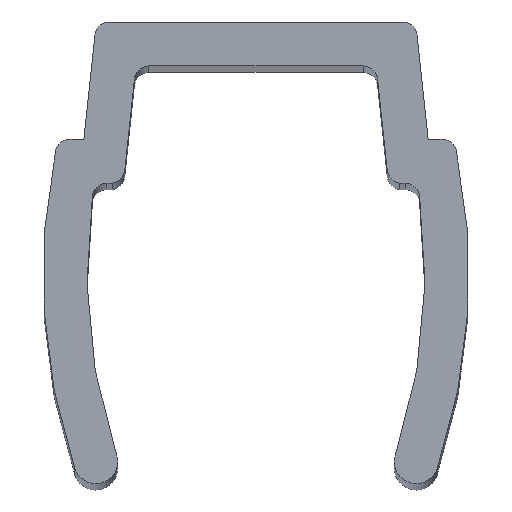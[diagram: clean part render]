
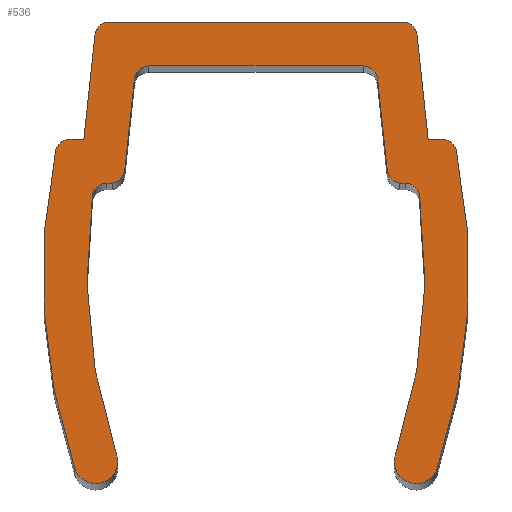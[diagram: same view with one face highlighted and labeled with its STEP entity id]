
A CAD part, top view. The second image highlights one B-rep face of the part: STEP entity #536.
In plain terms, the highlighted planar face has unit normal (0, 0, 1).
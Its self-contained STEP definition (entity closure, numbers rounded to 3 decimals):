
#15=CIRCLE('',#541,0.2);
#17=CIRCLE('',#546,0.2);
#19=CIRCLE('',#549,8.305);
#21=CIRCLE('',#552,0.3);
#23=CIRCLE('',#555,7.705);
#25=CIRCLE('',#558,0.2);
#27=CIRCLE('',#562,0.2);
#29=CIRCLE('',#566,0.2);
#31=CIRCLE('',#570,0.2);
#33=CIRCLE('',#574,0.2);
#35=CIRCLE('',#578,0.2);
#37=CIRCLE('',#581,7.705);
#39=CIRCLE('',#584,0.3);
#41=CIRCLE('',#587,8.305);
#43=CIRCLE('',#590,0.2);
#45=CIRCLE('',#595,0.2);
#90=FACE_OUTER_BOUND('',#118,.T.);
#118=EDGE_LOOP('',(#471,#472,#473,#474,#475,#476,#477,#478,#479,#480,#481,
#482,#483,#484,#485,#486,#487,#488,#489,#490,#491,#492,#493,#494,#495,#496));
#119=LINE('',#771,#165);
#124=LINE('',#785,#170);
#127=LINE('',#791,#173);
#135=LINE('',#827,#181);
#139=LINE('',#839,#185);
#143=LINE('',#851,#189);
#147=LINE('',#863,#193);
#151=LINE('',#875,#197);
#159=LINE('',#911,#205);
#162=LINE('',#917,#208);
#165=VECTOR('',#603,10.);
#170=VECTOR('',#616,10.);
#173=VECTOR('',#621,10.);
#181=VECTOR('',#661,10.);
#185=VECTOR('',#673,10.);
#189=VECTOR('',#685,10.);
#193=VECTOR('',#697,10.);
#197=VECTOR('',#709,10.);
#205=VECTOR('',#749,10.);
#208=VECTOR('',#754,10.);
#211=VERTEX_POINT('',#769);
#212=VERTEX_POINT('',#770);
#215=VERTEX_POINT('',#778);
#217=VERTEX_POINT('',#784);
#219=VERTEX_POINT('',#790);
#221=VERTEX_POINT('',#796);
#223=VERTEX_POINT('',#802);
#225=VERTEX_POINT('',#808);
#227=VERTEX_POINT('',#814);
#229=VERTEX_POINT('',#820);
#231=VERTEX_POINT('',#826);
#233=VERTEX_POINT('',#832);
#235=VERTEX_POINT('',#838);
#237=VERTEX_POINT('',#844);
#239=VERTEX_POINT('',#850);
#241=VERTEX_POINT('',#856);
#243=VERTEX_POINT('',#862);
#245=VERTEX_POINT('',#868);
#247=VERTEX_POINT('',#874);
#249=VERTEX_POINT('',#880);
#251=VERTEX_POINT('',#886);
#253=VERTEX_POINT('',#892);
#255=VERTEX_POINT('',#898);
#257=VERTEX_POINT('',#904);
#259=VERTEX_POINT('',#910);
#261=VERTEX_POINT('',#916);
#263=EDGE_CURVE('',#211,#212,#119,.T.);
#267=EDGE_CURVE('',#212,#215,#15,.T.);
#270=EDGE_CURVE('',#215,#217,#124,.T.);
#273=EDGE_CURVE('',#217,#219,#127,.T.);
#276=EDGE_CURVE('',#219,#221,#17,.T.);
#279=EDGE_CURVE('',#221,#223,#19,.T.);
#282=EDGE_CURVE('',#223,#225,#21,.T.);
#285=EDGE_CURVE('',#225,#227,#23,.T.);
#288=EDGE_CURVE('',#227,#229,#25,.T.);
#291=EDGE_CURVE('',#229,#231,#135,.T.);
#294=EDGE_CURVE('',#231,#233,#27,.T.);
#297=EDGE_CURVE('',#233,#235,#139,.T.);
#300=EDGE_CURVE('',#235,#237,#29,.T.);
#303=EDGE_CURVE('',#237,#239,#143,.T.);
#306=EDGE_CURVE('',#239,#241,#31,.T.);
#309=EDGE_CURVE('',#241,#243,#147,.T.);
#312=EDGE_CURVE('',#243,#245,#33,.T.);
#315=EDGE_CURVE('',#245,#247,#151,.T.);
#318=EDGE_CURVE('',#247,#249,#35,.T.);
#321=EDGE_CURVE('',#249,#251,#37,.T.);
#324=EDGE_CURVE('',#251,#253,#39,.T.);
#327=EDGE_CURVE('',#253,#255,#41,.T.);
#330=EDGE_CURVE('',#255,#257,#43,.T.);
#333=EDGE_CURVE('',#257,#259,#159,.T.);
#336=EDGE_CURVE('',#259,#261,#162,.T.);
#339=EDGE_CURVE('',#261,#211,#45,.T.);
#471=ORIENTED_EDGE('',*,*,#263,.F.);
#472=ORIENTED_EDGE('',*,*,#339,.F.);
#473=ORIENTED_EDGE('',*,*,#336,.F.);
#474=ORIENTED_EDGE('',*,*,#333,.F.);
#475=ORIENTED_EDGE('',*,*,#330,.F.);
#476=ORIENTED_EDGE('',*,*,#327,.F.);
#477=ORIENTED_EDGE('',*,*,#324,.F.);
#478=ORIENTED_EDGE('',*,*,#321,.F.);
#479=ORIENTED_EDGE('',*,*,#318,.F.);
#480=ORIENTED_EDGE('',*,*,#315,.F.);
#481=ORIENTED_EDGE('',*,*,#312,.F.);
#482=ORIENTED_EDGE('',*,*,#309,.F.);
#483=ORIENTED_EDGE('',*,*,#306,.F.);
#484=ORIENTED_EDGE('',*,*,#303,.F.);
#485=ORIENTED_EDGE('',*,*,#300,.F.);
#486=ORIENTED_EDGE('',*,*,#297,.F.);
#487=ORIENTED_EDGE('',*,*,#294,.F.);
#488=ORIENTED_EDGE('',*,*,#291,.F.);
#489=ORIENTED_EDGE('',*,*,#288,.F.);
#490=ORIENTED_EDGE('',*,*,#285,.F.);
#491=ORIENTED_EDGE('',*,*,#282,.F.);
#492=ORIENTED_EDGE('',*,*,#279,.F.);
#493=ORIENTED_EDGE('',*,*,#276,.F.);
#494=ORIENTED_EDGE('',*,*,#273,.F.);
#495=ORIENTED_EDGE('',*,*,#270,.F.);
#496=ORIENTED_EDGE('',*,*,#267,.F.);
#508=PLANE('',#598);
#536=ADVANCED_FACE('',(#90),#508,.T.);
#541=AXIS2_PLACEMENT_3D('',#779,#609,#610);
#546=AXIS2_PLACEMENT_3D('',#797,#626,#627);
#549=AXIS2_PLACEMENT_3D('',#803,#633,#634);
#552=AXIS2_PLACEMENT_3D('',#809,#640,#641);
#555=AXIS2_PLACEMENT_3D('',#815,#647,#648);
#558=AXIS2_PLACEMENT_3D('',#821,#654,#655);
#562=AXIS2_PLACEMENT_3D('',#833,#666,#667);
#566=AXIS2_PLACEMENT_3D('',#845,#678,#679);
#570=AXIS2_PLACEMENT_3D('',#857,#690,#691);
#574=AXIS2_PLACEMENT_3D('',#869,#702,#703);
#578=AXIS2_PLACEMENT_3D('',#881,#714,#715);
#581=AXIS2_PLACEMENT_3D('',#887,#721,#722);
#584=AXIS2_PLACEMENT_3D('',#893,#728,#729);
#587=AXIS2_PLACEMENT_3D('',#899,#735,#736);
#590=AXIS2_PLACEMENT_3D('',#905,#742,#743);
#595=AXIS2_PLACEMENT_3D('',#922,#759,#760);
#598=AXIS2_PLACEMENT_3D('',#925,#765,#766);
#603=DIRECTION('',(1.,0.,0.));
#609=DIRECTION('center_axis',(0.,0.,-1.));
#610=DIRECTION('ref_axis',(1.,0.,0.));
#616=DIRECTION('',(0.106,-0.994,0.));
#621=DIRECTION('',(1.,0.,0.));
#626=DIRECTION('center_axis',(0.,0.,-1.));
#627=DIRECTION('ref_axis',(0.979,0.203,0.));
#633=DIRECTION('center_axis',(0.,0.,-1.));
#634=DIRECTION('ref_axis',(0.946,-0.323,0.));
#640=DIRECTION('center_axis',(0.,0.,-1.));
#641=DIRECTION('ref_axis',(-0.948,0.319,0.));
#647=DIRECTION('center_axis',(0.,0.,1.));
#648=DIRECTION('ref_axis',(-0.946,0.323,0.));
#654=DIRECTION('center_axis',(0.,0.,1.));
#655=DIRECTION('ref_axis',(-0.99,-0.139,0.));
#661=DIRECTION('',(-1.,0.,0.));
#666=DIRECTION('center_axis',(0.,0.,-1.));
#667=DIRECTION('ref_axis',(-0.994,-0.106,0.));
#673=DIRECTION('',(-0.106,0.994,0.));
#678=DIRECTION('center_axis',(0.,0.,1.));
#679=DIRECTION('ref_axis',(-0.994,-0.106,0.));
#685=DIRECTION('',(-1.,0.,0.));
#690=DIRECTION('center_axis',(0.,0.,1.));
#691=DIRECTION('ref_axis',(0.,-1.,0.));
#697=DIRECTION('',(-0.106,-0.994,0.));
#702=DIRECTION('center_axis',(0.,0.,-1.));
#703=DIRECTION('ref_axis',(-0.109,-0.994,0.));
#709=DIRECTION('',(-1.,0.,0.));
#714=DIRECTION('center_axis',(0.,0.,1.));
#715=DIRECTION('ref_axis',(-0.109,-0.994,0.));
#721=DIRECTION('center_axis',(0.,0.,1.));
#722=DIRECTION('ref_axis',(0.99,-0.139,0.));
#728=DIRECTION('center_axis',(0.,0.,-1.));
#729=DIRECTION('ref_axis',(-0.948,-0.319,0.));
#735=DIRECTION('center_axis',(0.,0.,-1.));
#736=DIRECTION('ref_axis',(-0.979,0.203,0.));
#742=DIRECTION('center_axis',(0.,0.,-1.));
#743=DIRECTION('ref_axis',(0.,1.,0.));
#749=DIRECTION('',(1.,0.,0.));
#754=DIRECTION('',(0.106,0.994,0.));
#759=DIRECTION('center_axis',(0.,0.,-1.));
#760=DIRECTION('ref_axis',(0.,1.,0.));
#765=DIRECTION('center_axis',(0.,0.,1.));
#766=DIRECTION('ref_axis',(1.,0.,0.));
#769=CARTESIAN_POINT('',(60.933,48.612,50.));
#770=CARTESIAN_POINT('',(64.933,48.612,50.));
#771=CARTESIAN_POINT('',(64.933,48.612,50.));
#778=CARTESIAN_POINT('',(65.132,48.433,50.));
#779=CARTESIAN_POINT('Origin',(64.933,48.412,50.));
#784=CARTESIAN_POINT('',(65.283,47.012,50.));
#785=CARTESIAN_POINT('',(65.283,47.012,50.));
#790=CARTESIAN_POINT('',(65.472,47.012,50.));
#791=CARTESIAN_POINT('',(65.472,47.012,50.));
#796=CARTESIAN_POINT('',(65.667,46.853,50.));
#797=CARTESIAN_POINT('Origin',(65.472,46.812,50.));
#802=CARTESIAN_POINT('',(65.405,42.516,50.));
#803=CARTESIAN_POINT('Origin',(57.534,45.169,50.));
#808=CARTESIAN_POINT('',(64.836,42.708,50.));
#809=CARTESIAN_POINT('Origin',(65.121,42.612,50.));
#814=CARTESIAN_POINT('',(65.165,46.24,50.));
#815=CARTESIAN_POINT('Origin',(57.534,45.169,50.));
#820=CARTESIAN_POINT('',(64.967,46.412,50.));
#821=CARTESIAN_POINT('Origin',(64.967,46.212,50.));
#826=CARTESIAN_POINT('',(64.892,46.412,50.));
#827=CARTESIAN_POINT('',(64.892,46.412,50.));
#832=CARTESIAN_POINT('',(64.724,46.589,50.));
#833=CARTESIAN_POINT('Origin',(64.923,46.61,50.));
#838=CARTESIAN_POINT('',(64.592,47.833,50.));
#839=CARTESIAN_POINT('',(64.592,47.833,50.));
#844=CARTESIAN_POINT('',(64.393,48.012,50.));
#845=CARTESIAN_POINT('Origin',(64.393,47.812,50.));
#850=CARTESIAN_POINT('',(61.472,48.012,50.));
#851=CARTESIAN_POINT('',(61.472,48.012,50.));
#856=CARTESIAN_POINT('',(61.273,47.833,50.));
#857=CARTESIAN_POINT('Origin',(61.472,47.812,50.));
#862=CARTESIAN_POINT('',(61.141,46.589,50.));
#863=CARTESIAN_POINT('',(61.141,46.589,50.));
#868=CARTESIAN_POINT('',(60.973,46.412,50.));
#869=CARTESIAN_POINT('Origin',(60.942,46.61,50.));
#874=CARTESIAN_POINT('',(60.899,46.412,50.));
#875=CARTESIAN_POINT('',(60.899,46.412,50.));
#880=CARTESIAN_POINT('',(60.7,46.24,50.));
#881=CARTESIAN_POINT('Origin',(60.899,46.212,50.));
#886=CARTESIAN_POINT('',(61.029,42.708,50.));
#887=CARTESIAN_POINT('Origin',(68.331,45.169,50.));
#892=CARTESIAN_POINT('',(60.461,42.516,50.));
#893=CARTESIAN_POINT('Origin',(60.745,42.612,50.));
#898=CARTESIAN_POINT('',(60.198,46.853,50.));
#899=CARTESIAN_POINT('Origin',(68.331,45.169,50.));
#904=CARTESIAN_POINT('',(60.394,47.012,50.));
#905=CARTESIAN_POINT('Origin',(60.394,46.812,50.));
#910=CARTESIAN_POINT('',(60.583,47.012,50.));
#911=CARTESIAN_POINT('',(60.583,47.012,50.));
#916=CARTESIAN_POINT('',(60.734,48.433,50.));
#917=CARTESIAN_POINT('',(60.734,48.433,50.));
#922=CARTESIAN_POINT('Origin',(60.933,48.412,50.));
#925=CARTESIAN_POINT('Origin',(62.933,45.969,50.));
